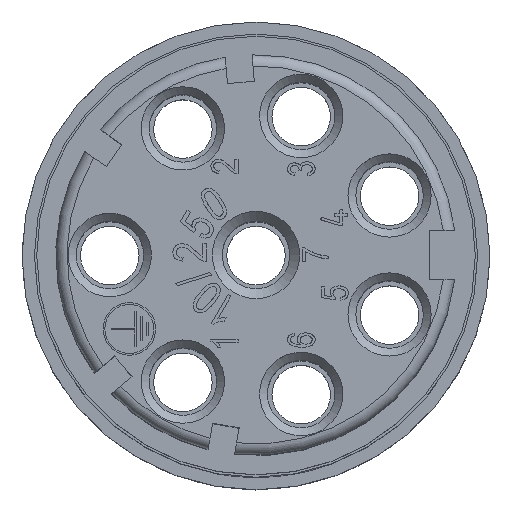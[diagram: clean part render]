
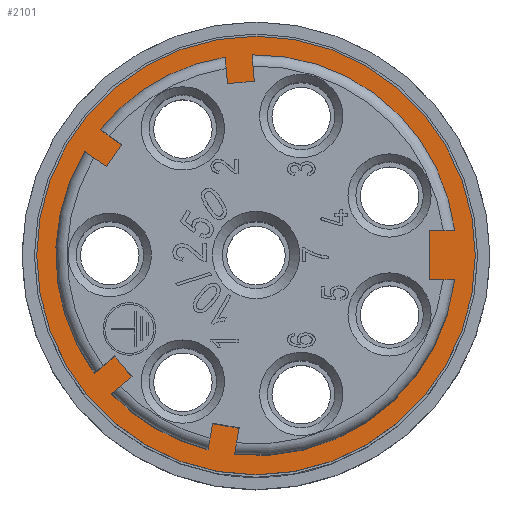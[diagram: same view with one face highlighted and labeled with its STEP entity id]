
A CAD part, top view. The second image highlights one B-rep face of the part: STEP entity #2101.
In plain terms, the highlighted planar face has unit normal (0, 0, 1).
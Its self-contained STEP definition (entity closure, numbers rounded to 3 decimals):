
#1243=PLANE('',#11440);
#2101=ADVANCED_FACE('',(#4641,#4642),#1243,.F.);
#2977=LINE('',#17039,#3752);
#2979=LINE('',#17043,#3754);
#2980=LINE('',#17045,#3755);
#2982=LINE('',#17049,#3757);
#2984=LINE('',#17053,#3759);
#2985=LINE('',#17055,#3760);
#2986=LINE('',#17057,#3761);
#2989=LINE('',#17063,#3764);
#2990=LINE('',#17065,#3765);
#2991=LINE('',#17067,#3766);
#2994=LINE('',#17073,#3769);
#2995=LINE('',#17075,#3770);
#2996=LINE('',#17077,#3771);
#2997=LINE('',#17080,#3772);
#2998=LINE('',#17081,#3773);
#3752=VECTOR('',#12705,1.);
#3754=VECTOR('',#12709,1.);
#3755=VECTOR('',#12712,1.);
#3757=VECTOR('',#12716,1.);
#3759=VECTOR('',#12720,1.);
#3760=VECTOR('',#12723,1.);
#3761=VECTOR('',#12726,1.);
#3764=VECTOR('',#12731,1.);
#3765=VECTOR('',#12734,1.);
#3766=VECTOR('',#12737,1.);
#3769=VECTOR('',#12742,1.);
#3770=VECTOR('',#12745,1.);
#3771=VECTOR('',#12748,1.);
#3772=VECTOR('',#12749,1.);
#3773=VECTOR('',#12750,1.);
#4407=CIRCLE('',#11398,8.9);
#4408=CIRCLE('',#11400,8.9);
#4411=CIRCLE('',#11404,8.9);
#4412=CIRCLE('',#11406,8.9);
#4414=CIRCLE('',#11413,8.9);
#4421=CIRCLE('',#11439,9.75);
#4641=FACE_BOUND('',#4958,.T.);
#4642=FACE_BOUND('',#4959,.T.);
#4958=EDGE_LOOP('',(#6238,#6239,#6240,#6241,#6242,#6243,#6244,#6245,#6246,
#6247,#6248,#6249,#6250,#6251,#6252,#6253,#6254,#6255,#6256,#6257));
#4959=EDGE_LOOP('',(#6258));
#6238=ORIENTED_EDGE('',*,*,#9860,.F.);
#6239=ORIENTED_EDGE('',*,*,#9861,.F.);
#6240=ORIENTED_EDGE('',*,*,#9806,.T.);
#6241=ORIENTED_EDGE('',*,*,#9853,.T.);
#6242=ORIENTED_EDGE('',*,*,#9854,.F.);
#6243=ORIENTED_EDGE('',*,*,#9850,.F.);
#6244=ORIENTED_EDGE('',*,*,#9814,.T.);
#6245=ORIENTED_EDGE('',*,*,#9841,.T.);
#6246=ORIENTED_EDGE('',*,*,#9843,.F.);
#6247=ORIENTED_EDGE('',*,*,#9844,.F.);
#6248=ORIENTED_EDGE('',*,*,#9816,.T.);
#6249=ORIENTED_EDGE('',*,*,#9846,.T.);
#6250=ORIENTED_EDGE('',*,*,#9848,.F.);
#6251=ORIENTED_EDGE('',*,*,#9849,.F.);
#6252=ORIENTED_EDGE('',*,*,#9828,.T.);
#6253=ORIENTED_EDGE('',*,*,#9859,.T.);
#6254=ORIENTED_EDGE('',*,*,#9858,.F.);
#6255=ORIENTED_EDGE('',*,*,#9855,.F.);
#6256=ORIENTED_EDGE('',*,*,#9808,.T.);
#6257=ORIENTED_EDGE('',*,*,#9862,.F.);
#6258=ORIENTED_EDGE('',*,*,#9863,.F.);
#8802=VERTEX_POINT('',#16793);
#8804=VERTEX_POINT('',#16797);
#8805=VERTEX_POINT('',#16801);
#8807=VERTEX_POINT('',#16804);
#8810=VERTEX_POINT('',#16811);
#8812=VERTEX_POINT('',#16815);
#8813=VERTEX_POINT('',#16819);
#8815=VERTEX_POINT('',#16822);
#8817=VERTEX_POINT('',#16975);
#8819=VERTEX_POINT('',#16978);
#8827=VERTEX_POINT('',#17038);
#8828=VERTEX_POINT('',#17042);
#8829=VERTEX_POINT('',#17048);
#8830=VERTEX_POINT('',#17052);
#8831=VERTEX_POINT('',#17058);
#8832=VERTEX_POINT('',#17062);
#8833=VERTEX_POINT('',#17068);
#8834=VERTEX_POINT('',#17072);
#8835=VERTEX_POINT('',#17078);
#8836=VERTEX_POINT('',#17079);
#8837=VERTEX_POINT('',#17083);
#9806=EDGE_CURVE('',#8802,#8804,#4407,.T.);
#9808=EDGE_CURVE('',#8807,#8805,#4408,.T.);
#9814=EDGE_CURVE('',#8810,#8812,#4411,.T.);
#9816=EDGE_CURVE('',#8815,#8813,#4412,.T.);
#9828=EDGE_CURVE('',#8819,#8817,#4414,.T.);
#9841=EDGE_CURVE('',#8812,#8827,#2977,.T.);
#9843=EDGE_CURVE('',#8828,#8827,#2979,.T.);
#9844=EDGE_CURVE('',#8815,#8828,#2980,.T.);
#9846=EDGE_CURVE('',#8813,#8829,#2982,.T.);
#9848=EDGE_CURVE('',#8830,#8829,#2984,.T.);
#9849=EDGE_CURVE('',#8819,#8830,#2985,.T.);
#9850=EDGE_CURVE('',#8810,#8831,#2986,.T.);
#9853=EDGE_CURVE('',#8804,#8832,#2989,.T.);
#9854=EDGE_CURVE('',#8831,#8832,#2990,.T.);
#9855=EDGE_CURVE('',#8807,#8833,#2991,.T.);
#9858=EDGE_CURVE('',#8833,#8834,#2994,.T.);
#9859=EDGE_CURVE('',#8817,#8834,#2995,.T.);
#9860=EDGE_CURVE('',#8835,#8836,#2996,.T.);
#9861=EDGE_CURVE('',#8802,#8835,#2997,.T.);
#9862=EDGE_CURVE('',#8836,#8805,#2998,.T.);
#9863=EDGE_CURVE('',#8837,#8837,#4421,.T.);
#11398=AXIS2_PLACEMENT_3D('',#16798,#12636,#12637);
#11400=AXIS2_PLACEMENT_3D('',#16803,#12641,#12642);
#11404=AXIS2_PLACEMENT_3D('',#16816,#12652,#12653);
#11406=AXIS2_PLACEMENT_3D('',#16821,#12657,#12658);
#11413=AXIS2_PLACEMENT_3D('',#16977,#12673,#12674);
#11439=AXIS2_PLACEMENT_3D('',#17082,#12751,#12752);
#11440=AXIS2_PLACEMENT_3D('',#17084,#12753,#12754);
#12636=DIRECTION('',(0.,0.,-1.));
#12637=DIRECTION('',(0.,-1.,0.));
#12641=DIRECTION('',(0.,0.,-1.));
#12642=DIRECTION('',(0.,-1.,0.));
#12652=DIRECTION('',(0.,0.,-1.));
#12653=DIRECTION('',(0.,-1.,0.));
#12657=DIRECTION('',(0.,0.,-1.));
#12658=DIRECTION('',(0.,-1.,0.));
#12673=DIRECTION('',(0.,0.,-1.));
#12674=DIRECTION('',(0.,-1.,0.));
#12705=DIRECTION('',(0.174,0.985,0.));
#12709=DIRECTION('',(0.985,-0.174,0.));
#12712=DIRECTION('',(0.174,0.985,0.));
#12716=DIRECTION('',(0.766,0.643,0.));
#12720=DIRECTION('',(0.643,-0.766,0.));
#12723=DIRECTION('',(0.766,0.643,0.));
#12726=DIRECTION('',(-1.,0.,0.));
#12731=DIRECTION('',(-1.,0.,0.));
#12734=DIRECTION('',(0.,1.,0.));
#12737=DIRECTION('',(0.819,-0.574,0.));
#12742=DIRECTION('',(-0.574,-0.819,0.));
#12745=DIRECTION('',(0.819,-0.574,0.));
#12748=DIRECTION('',(-0.996,-0.087,0.));
#12749=DIRECTION('',(0.087,-0.996,0.));
#12750=DIRECTION('',(-0.087,0.996,0.));
#12751=DIRECTION('',(0.,0.,-1.));
#12752=DIRECTION('',(0.,-1.,0.));
#12753=DIRECTION('',(0.,0.,-1.));
#12754=DIRECTION('',(0.,-1.,0.));
#16793=CARTESIAN_POINT('',(-0.176,8.898,14.4));
#16797=CARTESIAN_POINT('',(8.832,1.1,14.4));
#16798=CARTESIAN_POINT('',(0.,0.,14.4));
#16801=CARTESIAN_POINT('',(-1.372,8.794,14.4));
#16803=CARTESIAN_POINT('',(0.,0.,14.4));
#16804=CARTESIAN_POINT('',(-6.93,5.585,14.4));
#16811=CARTESIAN_POINT('',(8.832,-1.1,14.4));
#16815=CARTESIAN_POINT('',(-0.951,-8.849,14.4));
#16816=CARTESIAN_POINT('',(0.,0.,14.4));
#16819=CARTESIAN_POINT('',(-6.417,-6.167,14.4));
#16821=CARTESIAN_POINT('',(0.,0.,14.4));
#16822=CARTESIAN_POINT('',(-2.133,-8.641,14.4));
#16975=CARTESIAN_POINT('',(-7.618,4.602,14.4));
#16977=CARTESIAN_POINT('',(0.,0.,14.4));
#16978=CARTESIAN_POINT('',(-7.188,-5.248,14.4));
#17038=CARTESIAN_POINT('',(-0.746,-7.687,14.4));
#17039=CARTESIAN_POINT('',(-1.267,-10.642,14.4));
#17042=CARTESIAN_POINT('',(-1.928,-7.479,14.4));
#17043=CARTESIAN_POINT('',(-0.746,-7.687,14.4));
#17045=CARTESIAN_POINT('',(-1.928,-7.479,14.4));
#17048=CARTESIAN_POINT('',(-5.513,-5.409,14.4));
#17049=CARTESIAN_POINT('',(-7.811,-7.337,14.4));
#17052=CARTESIAN_POINT('',(-6.284,-4.49,14.4));
#17053=CARTESIAN_POINT('',(-5.513,-5.409,14.4));
#17055=CARTESIAN_POINT('',(-6.284,-4.49,14.4));
#17057=CARTESIAN_POINT('',(7.7,-1.1,14.4));
#17058=CARTESIAN_POINT('',(7.7,-1.1,14.4));
#17062=CARTESIAN_POINT('',(7.7,1.1,14.4));
#17063=CARTESIAN_POINT('',(10.7,1.1,14.4));
#17065=CARTESIAN_POINT('',(7.7,1.1,14.4));
#17067=CARTESIAN_POINT('',(-5.963,4.908,14.4));
#17068=CARTESIAN_POINT('',(-5.963,4.908,14.4));
#17072=CARTESIAN_POINT('',(-6.652,3.925,14.4));
#17073=CARTESIAN_POINT('',(-6.652,3.925,14.4));
#17075=CARTESIAN_POINT('',(-9.109,5.646,14.4));
#17077=CARTESIAN_POINT('',(-1.269,7.618,14.4));
#17078=CARTESIAN_POINT('',(-0.073,7.723,14.4));
#17079=CARTESIAN_POINT('',(-1.269,7.618,14.4));
#17080=CARTESIAN_POINT('',(-0.073,7.723,14.4));
#17081=CARTESIAN_POINT('',(-1.53,10.607,14.4));
#17082=CARTESIAN_POINT('',(0.,0.,14.4));
#17083=CARTESIAN_POINT('',(0.,-9.75,14.4));
#17084=CARTESIAN_POINT('',(0.,8.5,14.4));
